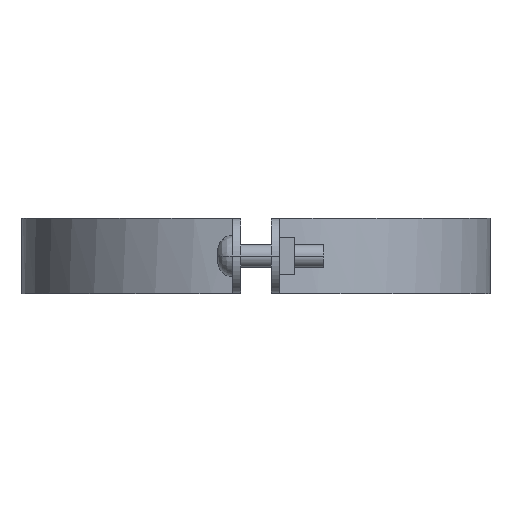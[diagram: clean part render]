
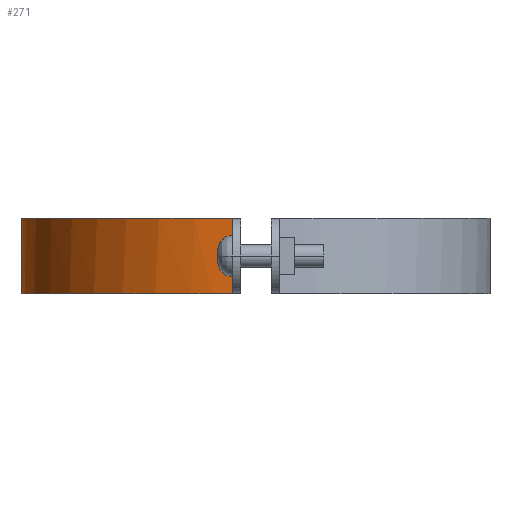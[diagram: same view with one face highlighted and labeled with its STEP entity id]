
A CAD part, left-side view. The second image highlights one B-rep face of the part: STEP entity #271.
In plain terms, the highlighted free-form (B-spline) face has degree [3, 1] with [4, 2] control points.
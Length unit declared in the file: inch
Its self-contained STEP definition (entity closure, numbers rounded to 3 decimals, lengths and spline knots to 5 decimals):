
#271=ADVANCED_FACE('',(#536),#537,.T.);
#536=FACE_OUTER_BOUND('',#1241,.T.);
#537=B_SPLINE_SURFACE_WITH_KNOTS('',3,1,((#1242,#1243),(#1244,#1245),(#1246,#1247),(#1248,#1249)),.UNSPECIFIED.,.F.,.F.,.F.,(4,4),(2,2),(0.0,1.0),(0.0,1.25),.UNSPECIFIED.);
#1241=EDGE_LOOP('',(#1813,#1814,#1815,#1816));
#1242=CARTESIAN_POINT('',(4.56415,7.47915,0.0));
#1243=CARTESIAN_POINT('',(4.56415,7.47915,1.25));
#1244=CARTESIAN_POINT('',(2.56653,7.47915,0.0));
#1245=CARTESIAN_POINT('',(2.56653,7.47915,1.25));
#1246=CARTESIAN_POINT('',(0.89413,5.96503,0.0));
#1247=CARTESIAN_POINT('',(0.89413,5.96503,1.25));
#1248=CARTESIAN_POINT('',(0.69616,3.97723,0.0));
#1249=CARTESIAN_POINT('',(0.69616,3.97723,1.25));
#1813=ORIENTED_EDGE('',*,*,#2086,.T.);
#1814=ORIENTED_EDGE('',*,*,#2090,.T.);
#1815=ORIENTED_EDGE('',*,*,#2204,.T.);
#1816=ORIENTED_EDGE('',*,*,#2188,.F.);
#2086=EDGE_CURVE('',#2412,#2419,#2421,.T.);
#2090=EDGE_CURVE('',#2419,#2424,#2426,.T.);
#2188=EDGE_CURVE('',#2412,#2565,#2566,.T.);
#2204=EDGE_CURVE('',#2424,#2565,#2587,.T.);
#2412=VERTEX_POINT('',#2961);
#2419=VERTEX_POINT('',#2972);
#2421=B_SPLINE_CURVE_WITH_KNOTS('',3,(#2975,#2976,#2977,#2978),.UNSPECIFIED.,.F.,.F.,(4,4),(0.0,1.0),.UNSPECIFIED.);
#2424=VERTEX_POINT('',#2984);
#2426=LINE('',#2987,#2988);
#2565=VERTEX_POINT('',#3271);
#2566=LINE('',#3272,#3273);
#2587=B_SPLINE_CURVE_WITH_KNOTS('',3,(#3304,#3305,#3306,#3307),.UNSPECIFIED.,.F.,.F.,(4,4),(-1.0,-0.0),.UNSPECIFIED.);
#2961=CARTESIAN_POINT('',(4.56415,7.47915,0.00011));
#2972=CARTESIAN_POINT('',(0.69616,3.97723,0.00011));
#2975=CARTESIAN_POINT('',(4.56415,7.47915,0.00011));
#2976=CARTESIAN_POINT('',(2.56653,7.47915,0.00011));
#2977=CARTESIAN_POINT('',(0.89413,5.96503,0.00011));
#2978=CARTESIAN_POINT('',(0.69616,3.97723,0.00011));
#2984=CARTESIAN_POINT('',(0.69616,3.97723,1.24992));
#2987=CARTESIAN_POINT('',(0.69616,3.97723,0.0));
#2988=VECTOR('',#3427,1.0);
#3271=CARTESIAN_POINT('',(4.56415,7.47915,1.24992));
#3272=CARTESIAN_POINT('',(4.56415,7.47915,0.0));
#3273=VECTOR('',#3485,1.0);
#3304=CARTESIAN_POINT('',(0.69616,3.97723,1.24992));
#3305=CARTESIAN_POINT('',(0.89413,5.96503,1.24992));
#3306=CARTESIAN_POINT('',(2.56653,7.47915,1.24992));
#3307=CARTESIAN_POINT('',(4.56415,7.47915,1.24992));
#3427=DIRECTION('',(0.0,0.0,1.0));
#3485=DIRECTION('',(0.0,0.0,1.0));
